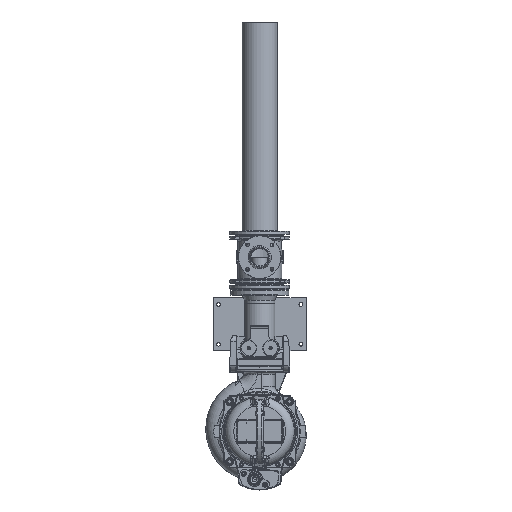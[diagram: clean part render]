
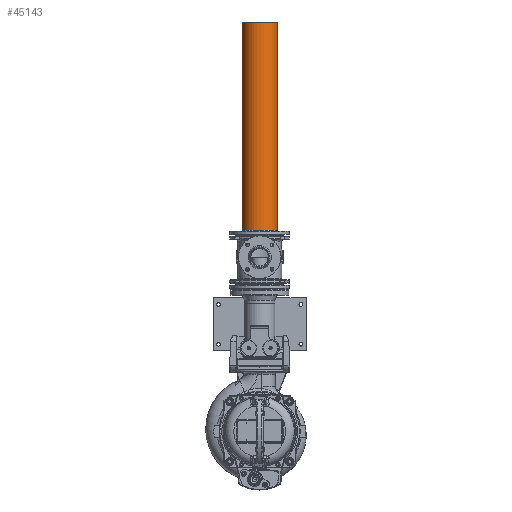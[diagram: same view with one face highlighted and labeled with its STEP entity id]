
A CAD part, top view. The second image highlights one B-rep face of the part: STEP entity #45143.
In plain terms, the highlighted cylindrical face has radius 66.5 mm (diameter 133 mm), a full revolution.
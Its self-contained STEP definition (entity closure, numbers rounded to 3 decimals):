
#4295=FACE_OUTER_BOUND('',#7143,.T.);
#7143=EDGE_LOOP('',(#29166,#29167,#29168,#29169,#29170));
#10251=LINE('',#67267,#12576);
#12576=VECTOR('',#54129,66.5);
#14928=CIRCLE('',#48569,66.5);
#14929=CIRCLE('',#48570,66.5);
#14930=CIRCLE('',#48572,66.5);
#17906=VERTEX_POINT('',#67259);
#17907=VERTEX_POINT('',#67261);
#17908=VERTEX_POINT('',#67265);
#22209=EDGE_CURVE('',#17906,#17907,#14928,.T.);
#22210=EDGE_CURVE('',#17907,#17906,#14929,.T.);
#22211=EDGE_CURVE('',#17908,#17908,#14930,.T.);
#22212=EDGE_CURVE('',#17908,#17907,#10251,.T.);
#29166=ORIENTED_EDGE('',*,*,#22211,.T.);
#29167=ORIENTED_EDGE('',*,*,#22212,.T.);
#29168=ORIENTED_EDGE('',*,*,#22209,.F.);
#29169=ORIENTED_EDGE('',*,*,#22210,.F.);
#29170=ORIENTED_EDGE('',*,*,#22212,.F.);
#42769=CYLINDRICAL_SURFACE('',#48571,66.5);
#45143=ADVANCED_FACE('',(#4295),#42769,.T.);
#48569=AXIS2_PLACEMENT_3D('',#67262,#54121,#54122);
#48570=AXIS2_PLACEMENT_3D('',#67263,#54123,#54124);
#48571=AXIS2_PLACEMENT_3D('',#67264,#54125,#54126);
#48572=AXIS2_PLACEMENT_3D('',#67266,#54127,#54128);
#54121=DIRECTION('center_axis',(0.,0.,-1.));
#54122=DIRECTION('ref_axis',(-1.,0.,0.));
#54123=DIRECTION('center_axis',(0.,0.,-1.));
#54124=DIRECTION('ref_axis',(-1.,0.,0.));
#54125=DIRECTION('center_axis',(0.,0.,1.));
#54126=DIRECTION('ref_axis',(1.,0.,0.));
#54127=DIRECTION('center_axis',(0.,0.,-1.));
#54128=DIRECTION('ref_axis',(1.,0.,0.));
#54129=DIRECTION('',(0.,0.,-1.));
#67259=CARTESIAN_POINT('',(66.5,0.,15.));
#67261=CARTESIAN_POINT('',(-66.5,0.,15.));
#67262=CARTESIAN_POINT('Origin',(0.,0.,15.));
#67263=CARTESIAN_POINT('Origin',(0.,0.,15.));
#67264=CARTESIAN_POINT('Origin',(0.,0.,0.));
#67265=CARTESIAN_POINT('',(-66.5,0.,800.));
#67266=CARTESIAN_POINT('Origin',(0.,0.,800.));
#67267=CARTESIAN_POINT('',(-66.5,0.,0.));
